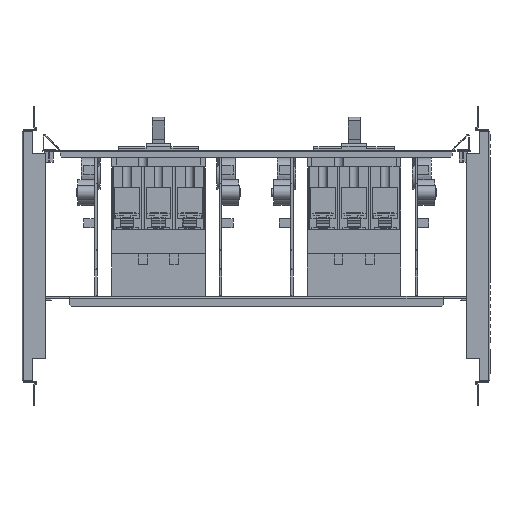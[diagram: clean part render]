
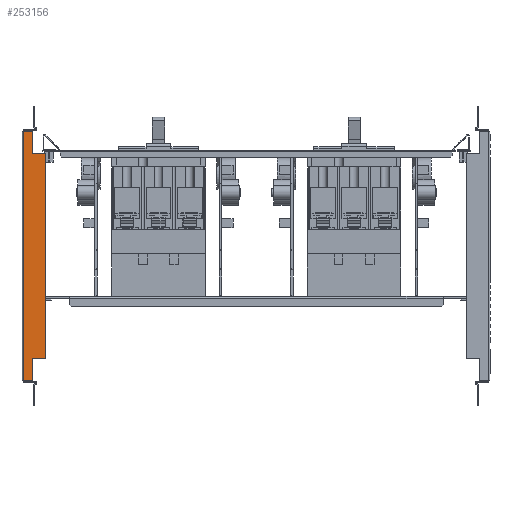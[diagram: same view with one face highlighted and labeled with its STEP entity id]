
A CAD part, front view. The second image highlights one B-rep face of the part: STEP entity #253156.
In plain terms, the highlighted planar face has unit normal (0, -1, 0).
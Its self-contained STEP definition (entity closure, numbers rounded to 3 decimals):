
#249951=CARTESIAN_POINT(' ',(-265.611,-119.467,-160.546));
#249952=VERTEX_POINT(' ',#249951);
#251131=CARTESIAN_POINT(' ',(-265.611,-119.467,120.252));
#251132=VERTEX_POINT(' ',#251131);
#251771=CARTESIAN_POINT(' ',(-257.711,-119.467,-160.546));
#251772=VERTEX_POINT(' ',#251771);
#251786=CARTESIAN_POINT(' ',(-265.611,-119.467,-160.546));
#251791=DIRECTION(' ',(1.,0.,0.));
#251796=VECTOR(' ',#251791,1.);
#251801=LINE('',#251786,#251796);
#251806=EDGE_CURVE(' ',#249952,#251772,#251801,.T.);
#251871=CARTESIAN_POINT(' ',(-265.611,-119.467,-160.546));
#251876=DIRECTION(' ',(0.,0.,1.));
#251881=VECTOR(' ',#251876,1.);
#251886=LINE('',#251871,#251881);
#251891=EDGE_CURVE(' ',#249952,#251132,#251886,.T.);
#251946=CARTESIAN_POINT(' ',(-265.611,-119.467,120.252));
#251951=DIRECTION(' ',(1.,0.,0.));
#251956=VECTOR(' ',#251951,1.);
#251961=LINE('',#251946,#251956);
#251966=CARTESIAN_POINT(' ',(-257.711,-119.467,120.252));
#251967=VERTEX_POINT(' ',#251966);
#251971=EDGE_CURVE(' ',#251132,#251967,#251961,.T.);
#252061=CARTESIAN_POINT(' ',(-257.71,-119.467,118.752));
#252066=DIRECTION(' ',(0.,-1.,0.));
#252071=DIRECTION(' ',(1.,0.,0.));
#252076=AXIS2_PLACEMENT_3D(' ',#252061,#252066,#252071);
#252081=CIRCLE('',#252076,1.5);
#252086=CARTESIAN_POINT(' ',(-256.211,-119.467,118.752));
#252087=VERTEX_POINT(' ',#252086);
#252091=EDGE_CURVE(' ',#252087,#251967,#252081,.T.);
#252191=CARTESIAN_POINT(' ',(-256.211,-119.467,118.752));
#252196=DIRECTION(' ',(0.,0.,-1.));
#252201=VECTOR(' ',#252196,1.);
#252206=LINE('',#252191,#252201);
#252211=CARTESIAN_POINT(' ',(-256.211,-119.467,94.852));
#252212=VERTEX_POINT(' ',#252211);
#252216=EDGE_CURVE(' ',#252087,#252212,#252206,.T.);
#252296=CARTESIAN_POINT(' ',(-256.211,-119.467,94.852));
#252301=DIRECTION(' ',(1.,0.,0.));
#252306=VECTOR(' ',#252301,1.);
#252311=LINE('',#252296,#252306);
#252316=CARTESIAN_POINT(' ',(-242.711,-119.467,94.852));
#252317=VERTEX_POINT(' ',#252316);
#252321=EDGE_CURVE(' ',#252212,#252317,#252311,.T.);
#252411=CARTESIAN_POINT(' ',(-242.71,-119.467,93.352));
#252416=DIRECTION(' ',(0.,-1.,0.));
#252421=DIRECTION(' ',(1.,0.,0.));
#252426=AXIS2_PLACEMENT_3D(' ',#252411,#252416,#252421);
#252431=CIRCLE('',#252426,1.5);
#252436=CARTESIAN_POINT(' ',(-241.211,-119.467,93.352));
#252437=VERTEX_POINT(' ',#252436);
#252441=EDGE_CURVE(' ',#252437,#252317,#252431,.T.);
#252531=CARTESIAN_POINT(' ',(-241.211,-119.467,-133.646));
#252536=DIRECTION(' ',(0.,0.,1.));
#252541=VECTOR(' ',#252536,1.);
#252546=LINE('',#252531,#252541);
#252551=CARTESIAN_POINT(' ',(-241.211,-119.467,-133.646));
#252552=VERTEX_POINT(' ',#252551);
#252556=EDGE_CURVE(' ',#252552,#252437,#252546,.T.);
#252646=CARTESIAN_POINT(' ',(-242.71,-119.467,-133.647));
#252651=DIRECTION(' ',(-0.,-1.,0.));
#252656=DIRECTION(' ',(0.,0.,-1.));
#252661=AXIS2_PLACEMENT_3D(' ',#252646,#252651,#252656);
#252666=CIRCLE('',#252661,1.499);
#252671=CARTESIAN_POINT(' ',(-242.711,-119.467,-135.146));
#252672=VERTEX_POINT(' ',#252671);
#252676=EDGE_CURVE(' ',#252672,#252552,#252666,.T.);
#252776=CARTESIAN_POINT(' ',(-256.211,-119.467,-135.146));
#252781=DIRECTION(' ',(1.,0.,0.));
#252786=VECTOR(' ',#252781,1.);
#252791=LINE('',#252776,#252786);
#252796=CARTESIAN_POINT(' ',(-256.211,-119.467,-135.146));
#252797=VERTEX_POINT(' ',#252796);
#252801=EDGE_CURVE(' ',#252797,#252672,#252791,.T.);
#252881=CARTESIAN_POINT(' ',(-256.211,-119.467,-159.046));
#252886=DIRECTION(' ',(0.,0.,1.));
#252891=VECTOR(' ',#252886,1.);
#252896=LINE('',#252881,#252891);
#252901=CARTESIAN_POINT(' ',(-256.211,-119.467,-159.046));
#252902=VERTEX_POINT(' ',#252901);
#252906=EDGE_CURVE(' ',#252902,#252797,#252896,.T.);
#253006=CARTESIAN_POINT(' ',(-257.71,-119.467,-159.047));
#253011=DIRECTION(' ',(0.,-1.,0.));
#253016=DIRECTION(' ',(0.,0.,-1.));
#253021=AXIS2_PLACEMENT_3D(' ',#253006,#253011,#253016);
#253026=CIRCLE('',#253021,1.499);
#253031=EDGE_CURVE(' ',#251772,#252902,#253026,.T.);
#253061=DIRECTION(' ',(0.,-1.,0.));
#253066=CARTESIAN_POINT(' ',(-265.611,-119.467,120.252));
#253071=DIRECTION(' ',(0.,0.,-1.));
#253076=AXIS2_PLACEMENT_3D(' ',#253066,#253061,#253071);
#253081=PLANE('NONE',#253076);
#253086=ORIENTED_EDGE(' ',*,*,#252216,.F.);
#253091=ORIENTED_EDGE(' ',*,*,#252091,.T.);
#253096=ORIENTED_EDGE(' ',*,*,#251971,.F.);
#253101=ORIENTED_EDGE(' ',*,*,#251891,.F.);
#253106=ORIENTED_EDGE(' ',*,*,#251806,.T.);
#253111=ORIENTED_EDGE(' ',*,*,#253031,.T.);
#253116=ORIENTED_EDGE(' ',*,*,#252906,.T.);
#253121=ORIENTED_EDGE(' ',*,*,#252801,.T.);
#253126=ORIENTED_EDGE(' ',*,*,#252676,.T.);
#253131=ORIENTED_EDGE(' ',*,*,#252556,.T.);
#253136=ORIENTED_EDGE(' ',*,*,#252441,.T.);
#253141=ORIENTED_EDGE(' ',*,*,#252321,.F.);
#253146=EDGE_LOOP(' ',(#253086,#253091,#253096,#253101,#253106,#253111,#253116,#253121,#253126,#253131,#253136,#253141));
#253151=FACE_OUTER_BOUND(' ',#253146,.T.);
#253156=ADVANCED_FACE('NONE',(#253151),#253081,.T.);
